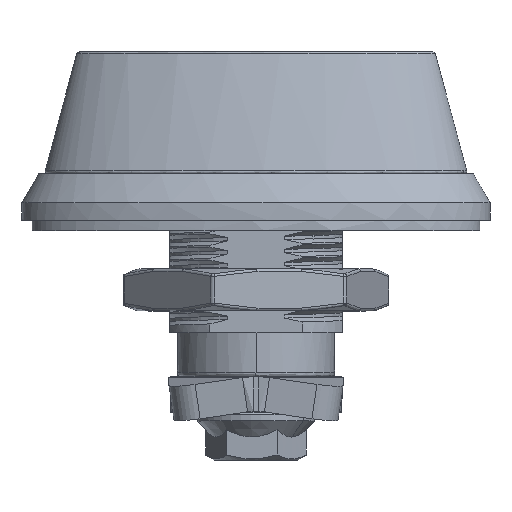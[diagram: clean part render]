
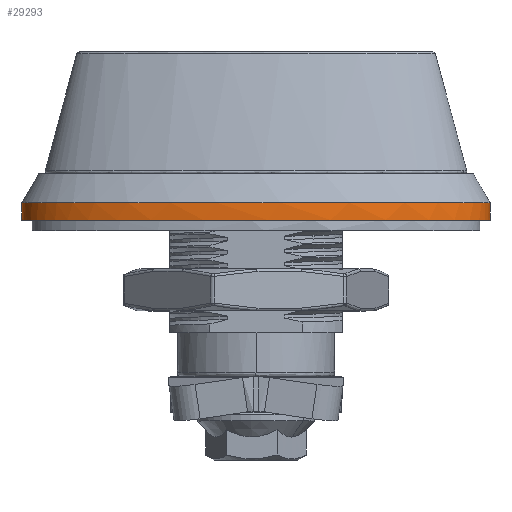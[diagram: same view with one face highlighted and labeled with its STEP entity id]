
A CAD part, top view. The second image highlights one B-rep face of the part: STEP entity #29293.
In plain terms, the highlighted free-form (B-spline) face has degree [3, 1] with [4, 2] control points.
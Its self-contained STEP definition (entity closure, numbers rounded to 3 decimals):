
#231 = CARTESIAN_POINT ( 'NONE',  ( -17.71, 2., 9.417 ) ) ;
#367 = CARTESIAN_POINT ( 'NONE',  ( -26.8, 0., 0. ) ) ;
#781 = CARTESIAN_POINT ( 'NONE',  ( 26.8, 2., 0.818 ) ) ;
#1051 = CARTESIAN_POINT ( 'NONE',  ( 26.8, 0., 0. ) ) ;
#2773 = ORIENTED_EDGE ( 'NONE', *, *, #21693, .T. ) ;
#3148 = VERTEX_POINT ( 'NONE', #14416 ) ;
#3489 = VECTOR ( 'NONE', #11598, 1000. ) ;
#3507 = LINE ( 'NONE', #20214, #3489 ) ;
#4348 = ORIENTED_EDGE ( 'NONE', *, *, #9082, .T. ) ;
#5226 = CARTESIAN_POINT ( 'NONE',  ( 20.191, 2., 8.26 ) ) ;
#5505 = CARTESIAN_POINT ( 'NONE',  ( 26.8, 2., 0. ) ) ;
#5775 = CARTESIAN_POINT ( 'NONE',  ( -24.089, 2., 5.539 ) ) ;
#5931 = CARTESIAN_POINT ( 'NONE',  ( 26.8, 0., 0. ) ) ;
#6898 = CARTESIAN_POINT ( 'NONE',  ( -26.8, 0., 0. ) ) ;
#7505 = CARTESIAN_POINT ( 'NONE',  ( -26.8, 0., 25. ) ) ;
#8202 = CARTESIAN_POINT ( 'NONE',  ( 26.8, 0., 0. ) ) ;
#8877 = CARTESIAN_POINT ( 'NONE',  ( -25.431, 2., 4.028 ) ) ;
#9082 = EDGE_CURVE ( 'NONE', #11064, #25518, #34632, .T. ) ;
#9422 = CARTESIAN_POINT ( 'NONE',  ( 25.431, 2., 4.028 ) ) ;
#9698 = CARTESIAN_POINT ( 'NONE',  ( -23.258, 2., 6.264 ) ) ;
#11064 = VERTEX_POINT ( 'NONE', #46475 ) ;
#11598 = DIRECTION ( 'NONE',  ( 0., -1., 0. ) ) ;
#11649 = ORIENTED_EDGE ( 'NONE', *, *, #29784, .F. ) ;
#13051 = CARTESIAN_POINT ( 'NONE',  ( 26.627, 2., 1.636 ) ) ;
#13462 = DIRECTION ( 'NONE',  ( 0., -1., 0. ) ) ;
#13611 = CARTESIAN_POINT ( 'NONE',  ( -11.876, 2., 11.235 ) ) ;
#14155 = CARTESIAN_POINT ( 'NONE',  ( 17.71, 2., 9.417 ) ) ;
#14416 = CARTESIAN_POINT ( 'NONE',  ( 26.8, 2., 0. ) ) ;
#15062 = EDGE_CURVE ( 'NONE', #3148, #22445, #3507, .T. ) ;
#16287 = CARTESIAN_POINT ( 'NONE',  ( 26.8, 2., 0. ) ) ;
#16550 = CARTESIAN_POINT ( 'NONE',  ( -26.8, 0., 25. ) ) ;
#16828 = CARTESIAN_POINT ( 'NONE',  ( -26.8, 2., 0. ) ) ;
#17235 = CARTESIAN_POINT ( 'NONE',  ( 13.431, 2., 10.848 ) ) ;
#18054 = CARTESIAN_POINT ( 'NONE',  ( -25.943, 2., 3.241 ) ) ;
#19222 = ORIENTED_EDGE ( 'NONE', *, *, #15062, .F. ) ;
#20214 = CARTESIAN_POINT ( 'NONE',  ( 26.8, 2., 0. ) ) ;
#21693 = EDGE_CURVE ( 'NONE', #25518, #22445, #24692, .T. ) ;
#22208 = CARTESIAN_POINT ( 'NONE',  ( 25.943, 2., 3.241 ) ) ;
#22445 = VERTEX_POINT ( 'NONE', #5931 ) ;
#22486 = CARTESIAN_POINT ( 'NONE',  ( -7.015, 2., 12.175 ) ) ;
#24488 = CARTESIAN_POINT ( 'NONE',  ( 26.8, 0., 25. ) ) ;
#24692 =( BOUNDED_CURVE ( )  B_SPLINE_CURVE ( 3, ( #32862, #7505, #24488, #1051 ),
 .UNSPECIFIED., .F., .T. ) 
 B_SPLINE_CURVE_WITH_KNOTS ( ( 4, 4 ),
 ( 3.142, 6.283 ),
 .UNSPECIFIED. ) 
 CURVE ( )  GEOMETRIC_REPRESENTATION_ITEM ( )  RATIONAL_B_SPLINE_CURVE ( ( 1., 0.333, 0.333, 1. ) ) 
 REPRESENTATION_ITEM ( '' )  );
#25518 = VERTEX_POINT ( 'NONE', #6898 ) ;
#25855 = CARTESIAN_POINT ( 'NONE',  ( 16.348, 2., 9.939 ) ) ;
#26402 = CARTESIAN_POINT ( 'NONE',  ( -26.8, 2., 0. ) ) ;
#26687 = CARTESIAN_POINT ( 'NONE',  ( -26.8, 2., 0.818 ) ) ;
#26961 = CARTESIAN_POINT ( 'NONE',  ( -16.348, 2., 9.939 ) ) ;
#29155 = VECTOR ( 'NONE', #13462, 1000. ) ;
#29293 = ADVANCED_FACE ( 'NONE', ( #50820 ), #47251, .F. ) ;
#29381 = CARTESIAN_POINT ( 'NONE',  ( 26.8, 2., 25. ) ) ;
#29784 = EDGE_CURVE ( 'NONE', #11064, #3148, #50841, .T. ) ;
#30595 = CARTESIAN_POINT ( 'NONE',  ( -3.508, 2., 12.5 ) ) ;
#30714 = CARTESIAN_POINT ( 'NONE',  ( -26.8, 2., 0. ) ) ;
#30919 = EDGE_LOOP ( 'NONE', ( #11649, #4348, #2773, #19222 ) ) ;
#32862 = CARTESIAN_POINT ( 'NONE',  ( -26.8, 0., 0. ) ) ;
#34632 = LINE ( 'NONE', #30714, #29155 ) ;
#34784 = CARTESIAN_POINT ( 'NONE',  ( -26.627, 2., 1.636 ) ) ;
#35049 = CARTESIAN_POINT ( 'NONE',  ( 7.015, 2., 12.175 ) ) ;
#35323 = CARTESIAN_POINT ( 'NONE',  ( -13.431, 2., 10.848 ) ) ;
#37744 = CARTESIAN_POINT ( 'NONE',  ( -26.8, 2., 25. ) ) ;
#39245 = CARTESIAN_POINT ( 'NONE',  ( 24.089, 2., 5.539 ) ) ;
#42209 = CARTESIAN_POINT ( 'NONE',  ( 26.8, 0., 25. ) ) ;
#43703 = CARTESIAN_POINT ( 'NONE',  ( 11.876, 2., 11.235 ) ) ;
#46475 = CARTESIAN_POINT ( 'NONE',  ( -26.8, 2., 0. ) ) ;
#47251 =( BOUNDED_SURFACE ( )  B_SPLINE_SURFACE ( 3, 1, ( 
 ( #16828, #367 ),
 ( #37744, #16550 ),
 ( #29381, #42209 ),
 ( #16287, #8202 ) ),
 .UNSPECIFIED., .F., .F., .F. ) 
 B_SPLINE_SURFACE_WITH_KNOTS ( ( 4, 4 ),
 ( 2, 2 ),
 ( 0., 1. ),
 ( 0., 1. ),
 .UNSPECIFIED. ) 
 GEOMETRIC_REPRESENTATION_ITEM ( )  RATIONAL_B_SPLINE_SURFACE ( (
 ( 1., 1.),
 ( 0.333, 0.333),
 ( 0.333, 0.333),
 ( 1., 1.) ) ) 
 REPRESENTATION_ITEM ( '' )  SURFACE ( )  );
#47601 = CARTESIAN_POINT ( 'NONE',  ( 3.508, 2., 12.5 ) ) ;
#50820 = FACE_OUTER_BOUND ( 'NONE', #30919, .T. ) ;
#50841 = B_SPLINE_CURVE_WITH_KNOTS ( 'NONE', 3,
 ( #26402, #26687, #34784, #18054, #8877, #5775, #9698, #52310, #51779, #231, #26961, #35323, #13611, #22486, #30595, #47601, #35049, #43703, #17235, #25855, #14155, #5226, #51213, #52041, #39245, #9422, #22208, #13051, #781, #5505 ),
 .UNSPECIFIED., .F., .F.,
 ( 4, 2, 2, 2, 2, 2, 2, 2, 2, 2, 2, 2, 2, 2, 4 ),
 ( 0., 0.031, 0.063, 0.094, 0.125, 0.156, 0.187, 0.25, 0.313, 0.344, 0.375, 0.406, 0.437, 0.469, 0.5 ),
 .UNSPECIFIED. ) ;
#51213 = CARTESIAN_POINT ( 'NONE',  ( 21.309, 2., 7.625 ) ) ;
#51779 = CARTESIAN_POINT ( 'NONE',  ( -20.191, 2., 8.26 ) ) ;
#52041 = CARTESIAN_POINT ( 'NONE',  ( 23.258, 2., 6.264 ) ) ;
#52310 = CARTESIAN_POINT ( 'NONE',  ( -21.309, 2., 7.625 ) ) ;
